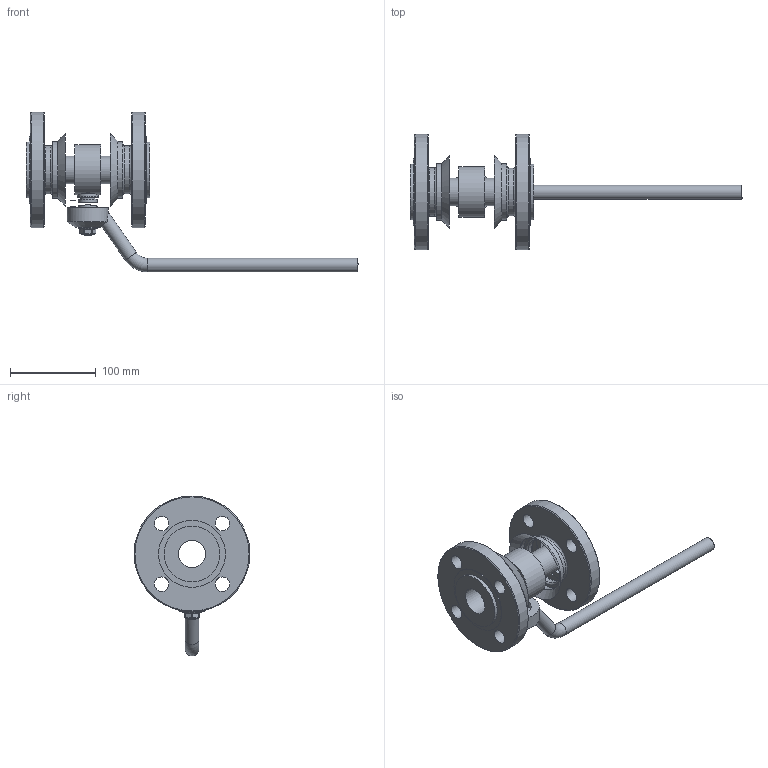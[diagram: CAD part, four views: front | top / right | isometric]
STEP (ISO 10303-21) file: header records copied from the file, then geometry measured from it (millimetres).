
FILE_DESCRIPTION(('STEP AP203'), '1');
FILE_NAME('ZARDP 032.025.22.P.stp', '2013-12-06T06:03:40', ('User'), ('Computer'), 'ASCON STEP Converter 1.3', 'Kompas 3D', '');
FILE_SCHEMA(('CONFIG_CONTROL_DESIGN','SUPPORT_RESOURCE_SCHEMA'));
Length unit declared in the file: millimetre
Products named in the file (1): 29
Bounding box: 387.01 x 135 x 186.5 mm (x, y, z)
Surface area: 143154.2 mm2
Topology: 6 solids, 7 shells, 177 faces, 381 edges, 240 vertices
Faces by surface type: plane 82, cylinder 62, cone 21, torus 12
Full cylindrical faces by diameter (mm): 6 x2, 10 x2, 16 x3, 16.1 x1, 17 x8, 21.8 x1, 22 x2, 24.3 x1, 24.5 x1, 32 x2, 48 x1, 56 x2, 58.4 x1, 65 x2, 66 x2, 78 x2, 84.5 x1, 135 x2
Entity records: 6204 total; most frequent: CARTESIAN_POINT 2168, DIRECTION 863, ORIENTED_EDGE 760, EDGE_CURVE 381, AXIS2_PLACEMENT_3D 347, VERTEX_POINT 240, EDGE_LOOP 222, ADVANCED_FACE 177
